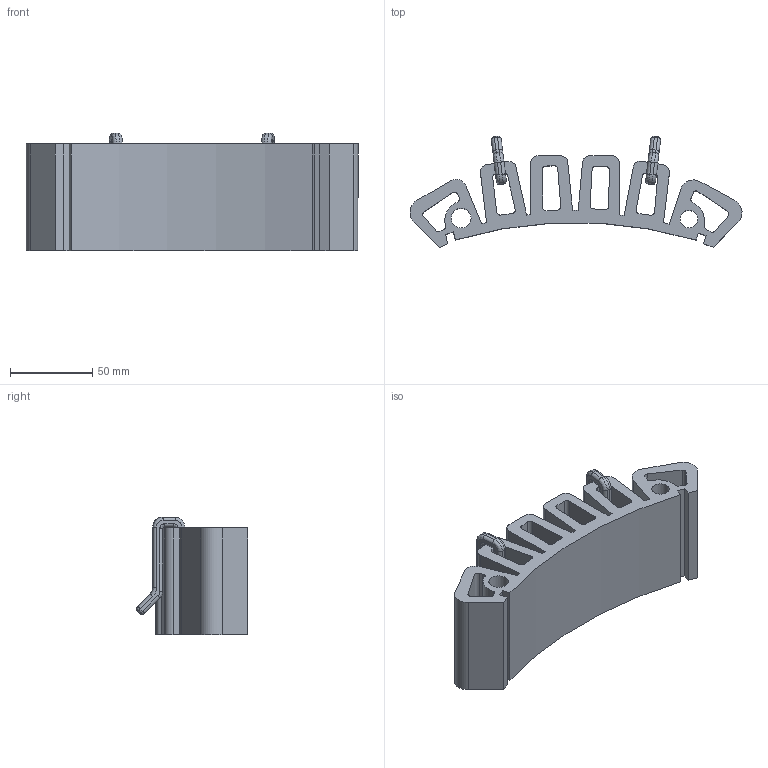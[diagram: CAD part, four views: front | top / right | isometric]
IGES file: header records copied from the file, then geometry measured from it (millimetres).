
Global section: file name: 49009999.ipt; native system: Autodesk Inventor 2015; preprocessor: unknown; author: KIM; date: 20171106.093521; units: millimetre
Bounding box: 201.98 x 67.78 x 71.5 mm (x, y, z)
Volume: 295379.5 mm3; surface area: 93801.1 mm2
Topology: 3 solids, 3 shells, 224 faces, 558 edges, 340 vertices
Faces by surface type: plane 78, cylinder 71, revolution 59, sphere 16
